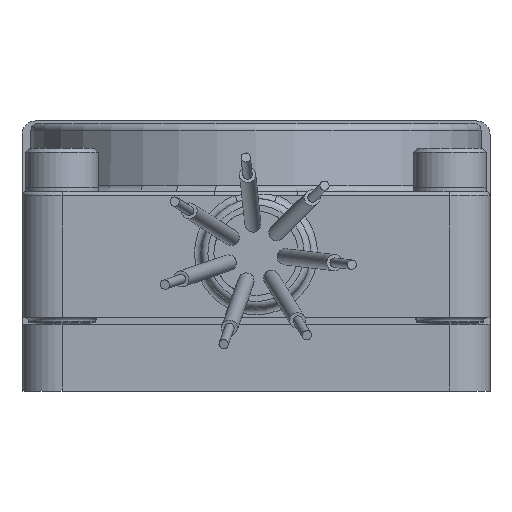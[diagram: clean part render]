
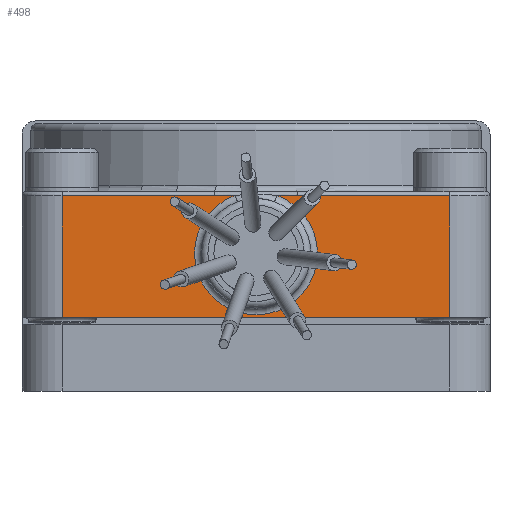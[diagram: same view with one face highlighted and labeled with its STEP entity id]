
A CAD part, front view. The second image highlights one B-rep face of the part: STEP entity #498.
In plain terms, the highlighted planar face has unit normal (0, -1, 0).
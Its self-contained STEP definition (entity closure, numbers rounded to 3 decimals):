
#498=ADVANCED_FACE('NONE',(#1210),#1211,.F.);
#1210=FACE_OUTER_BOUND('',#2324,.T.);
#1211=PLANE('',#2325);
#2324=EDGE_LOOP('',(#4112,#4113,#4114,#4115,#4116,#4117,#4118,#4119));
#2325=AXIS2_PLACEMENT_3D('',#4120,#4121,#4122);
#4112=ORIENTED_EDGE('',*,*,#5720,.T.);
#4113=ORIENTED_EDGE('',*,*,#5442,.T.);
#4114=ORIENTED_EDGE('',*,*,#5721,.T.);
#4115=ORIENTED_EDGE('',*,*,#5414,.T.);
#4116=ORIENTED_EDGE('',*,*,#5385,.T.);
#4117=ORIENTED_EDGE('',*,*,#5363,.F.);
#4118=ORIENTED_EDGE('',*,*,#5376,.T.);
#4119=ORIENTED_EDGE('',*,*,#5403,.T.);
#4120=CARTESIAN_POINT('',(-17.5,-49.5,-8.9));
#4121=DIRECTION('',(-0.0,1.0,0.0));
#4122=DIRECTION('',(1.0,0.0,0.0));
#5363=EDGE_CURVE('NONE',#6215,#6217,#6218,.T.);
#5376=EDGE_CURVE('NONE',#6215,#6236,#6238,.T.);
#5385=EDGE_CURVE('NONE',#6249,#6217,#6250,.T.);
#5403=EDGE_CURVE('NONE',#6236,#6274,#6276,.T.);
#5414=EDGE_CURVE('NONE',#6286,#6249,#6294,.T.);
#5442=EDGE_CURVE('NONE',#6335,#6333,#6336,.T.);
#5720=EDGE_CURVE('NONE',#6274,#6335,#6765,.T.);
#5721=EDGE_CURVE('NONE',#6333,#6286,#6766,.T.);
#6215=VERTEX_POINT('NONE',#7434);
#6217=VERTEX_POINT('NONE',#7436);
#6218=LINE('',#7437,#7438);
#6236=VERTEX_POINT('NONE',#7457);
#6238=LINE('',#7459,#7460);
#6249=VERTEX_POINT('NONE',#7472);
#6250=LINE('',#7473,#7474);
#6274=VERTEX_POINT('NONE',#7505);
#6276=LINE('',#7507,#7508);
#6286=VERTEX_POINT('NONE',#7520);
#6294=LINE('',#7530,#7531);
#6333=VERTEX_POINT('NONE',#7576);
#6335=VERTEX_POINT('NONE',#7578);
#6336=CIRCLE('',#7579,4.6);
#6765=B_SPLINE_CURVE_WITH_KNOTS('',3,(#8331,#8332,#8333,#8334),.UNSPECIFIED.,.F.,.F.,(4,4),(0.0,0.002),.UNSPECIFIED.);
#6766=B_SPLINE_CURVE_WITH_KNOTS('',3,(#8335,#8336,#8337,#8338),.UNSPECIFIED.,.F.,.F.,(4,4),(0.005,0.006),.UNSPECIFIED.);
#7434=CARTESIAN_POINT('',(14.5,-49.5,-8.9));
#7436=CARTESIAN_POINT('',(-14.5,-49.5,-8.9));
#7437=CARTESIAN_POINT('',(-17.5,-49.5,-8.9));
#7438=VECTOR('',#9006,1.0);
#7457=CARTESIAN_POINT('',(14.5,-49.5,0.2));
#7459=CARTESIAN_POINT('',(14.5,-49.5,-8.9));
#7460=VECTOR('',#9032,1.0);
#7472=CARTESIAN_POINT('',(-14.5,-49.5,0.2));
#7473=CARTESIAN_POINT('',(-14.5,-49.5,-8.9));
#7474=VECTOR('',#9043,1.0);
#7505=CARTESIAN_POINT('',(3.132,-49.5,0.2));
#7507=CARTESIAN_POINT('',(-14.5,-49.5,0.2));
#7508=VECTOR('',#9069,1.0);
#7520=CARTESIAN_POINT('',(-3.132,-49.5,0.2));
#7530=CARTESIAN_POINT('',(-14.5,-49.5,0.2));
#7531=VECTOR('',#9086,1.0);
#7576=CARTESIAN_POINT('',(-1.556,-49.5,0.229));
#7578=CARTESIAN_POINT('',(1.556,-49.5,0.229));
#7579=AXIS2_PLACEMENT_3D('',#9132,#9133,#9134);
#8331=CARTESIAN_POINT('',(3.132,-49.5,0.2));
#8332=CARTESIAN_POINT('',(2.607,-49.5,0.2));
#8333=CARTESIAN_POINT('',(2.081,-49.5,0.216));
#8334=CARTESIAN_POINT('',(1.556,-49.5,0.229));
#8335=CARTESIAN_POINT('',(-1.556,-49.5,0.229));
#8336=CARTESIAN_POINT('',(-2.081,-49.5,0.216));
#8337=CARTESIAN_POINT('',(-2.607,-49.5,0.2));
#8338=CARTESIAN_POINT('',(-3.132,-49.5,0.2));
#9006=DIRECTION('',(-1.0,0.0,0.0));
#9032=DIRECTION('',(0.0,0.0,1.0));
#9043=DIRECTION('',(0.0,0.0,-1.0));
#9069=DIRECTION('',(-1.0,0.0,0.0));
#9086=DIRECTION('',(-1.0,0.0,0.0));
#9132=CARTESIAN_POINT('',(0.,-49.5,-4.1));
#9133=DIRECTION('',(0.0,1.0,0.0));
#9134=DIRECTION('',(0.0,0.0,1.0));
